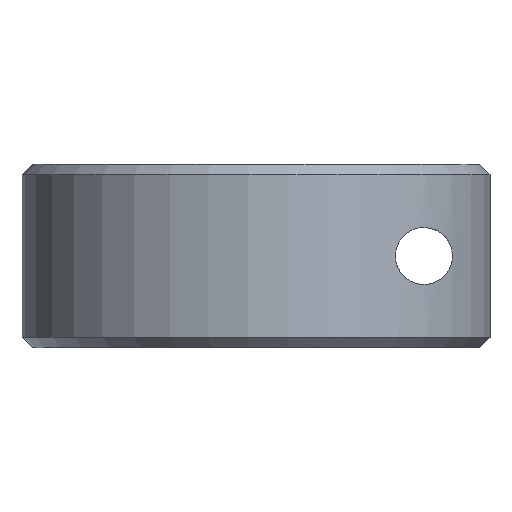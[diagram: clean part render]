
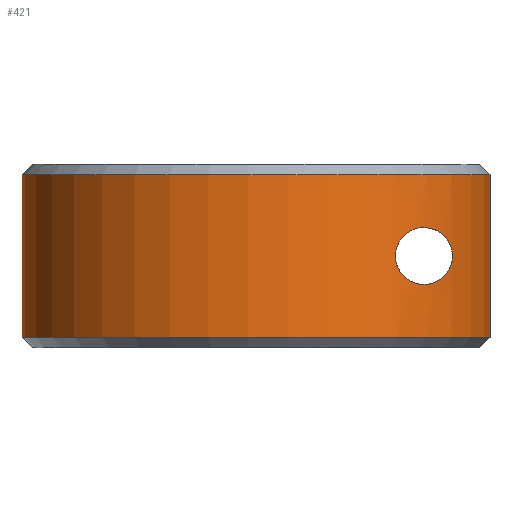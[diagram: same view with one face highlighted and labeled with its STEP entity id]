
A CAD part, front view. The second image highlights one B-rep face of the part: STEP entity #421.
In plain terms, the highlighted cylindrical face has radius 11.113 mm (diameter 22.225 mm), a partial arc.
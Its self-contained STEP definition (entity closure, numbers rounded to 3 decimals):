
#31 = CARTESIAN_POINT ( 'NONE',  ( 6.598, -8.942, 4.248 ) ) ;
#36 = CARTESIAN_POINT ( 'NONE',  ( 6.656, -8.899, 4.761 ) ) ;
#42 = CARTESIAN_POINT ( 'NONE',  ( 6.941, -8.68, 5.273 ) ) ;
#50 = CARTESIAN_POINT ( 'NONE',  ( 9.232, -6.185, 3.912 ) ) ;
#58 = FACE_BOUND ( 'NONE', #350, .T. ) ;
#68 = CARTESIAN_POINT ( 'NONE',  ( 9.233, -6.184, 4.798 ) ) ;
#69 = CARTESIAN_POINT ( 'NONE',  ( 7.95, -7.764, 3.004 ) ) ;
#73 = ORIENTED_EDGE ( 'NONE', *, *, #1037, .T. ) ;
#77 = CARTESIAN_POINT ( 'NONE',  ( 9.303, -6.078, 4.472 ) ) ;
#83 = VERTEX_POINT ( 'NONE', #585 ) ;
#112 = VERTEX_POINT ( 'NONE', #313 ) ;
#127 = B_SPLINE_CURVE_WITH_KNOTS ( 'NONE', 3,
 ( #69, #666, #210, #218, #1130, #495, #1101, #319, #775, #591, #856, #760, #31, #1023, #523, #36, #337, #571, #42, #910, #698, #213, #610, #583 ),
 .UNSPECIFIED., .F., .F.,
 ( 4, 2, 2, 2, 2, 2, 2, 2, 2, 2, 2, 4 ),
 ( 0., 0.001, 0.001, 0.002, 0.002, 0.002, 0.002, 0.003, 0.003, 0.004, 0.004, 0.005 ),
 .UNSPECIFIED. ) ;
#154 = CARTESIAN_POINT ( 'NONE',  ( 7.95, -7.764, 3.004 ) ) ;
#207 = VECTOR ( 'NONE', #594, 1000. ) ;
#210 = CARTESIAN_POINT ( 'NONE',  ( 7.656, -8.057, 3.026 ) ) ;
#213 = CARTESIAN_POINT ( 'NONE',  ( 7.654, -8.058, 5.685 ) ) ;
#218 = CARTESIAN_POINT ( 'NONE',  ( 7.359, -8.329, 3.13 ) ) ;
#232 = LINE ( 'NONE', #486, #207 ) ;
#233 = VERTEX_POINT ( 'NONE', #643 ) ;
#246 = CARTESIAN_POINT ( 'NONE',  ( 9.303, -6.079, 4.237 ) ) ;
#258 = CIRCLE ( 'NONE', #660, 11.113 ) ;
#275 = EDGE_CURVE ( 'NONE', #1124, #83, #258, .T. ) ;
#284 = CIRCLE ( 'NONE', #957, 11.113 ) ;
#290 = CARTESIAN_POINT ( 'NONE',  ( 11.084, -0.794, 8.204 ) ) ;
#300 = DIRECTION ( 'NONE',  ( 0., 0., -1. ) ) ;
#313 = CARTESIAN_POINT ( 'NONE',  ( 7.95, -7.764, 3.004 ) ) ;
#319 = CARTESIAN_POINT ( 'NONE',  ( 6.831, -8.765, 3.591 ) ) ;
#331 = CARTESIAN_POINT ( 'NONE',  ( 9.061, -6.435, 3.561 ) ) ;
#337 = CARTESIAN_POINT ( 'NONE',  ( 6.69, -8.873, 4.858 ) ) ;
#340 = CARTESIAN_POINT ( 'NONE',  ( -11.113, 0., 8.712 ) ) ;
#348 = CARTESIAN_POINT ( 'NONE',  ( 9.194, -6.242, 3.816 ) ) ;
#350 = EDGE_LOOP ( 'NONE', ( #73, #942 ) ) ;
#391 = DIRECTION ( 'NONE',  ( -1., 0., 0. ) ) ;
#406 = DIRECTION ( 'NONE',  ( 1., 0., 0. ) ) ;
#409 = B_SPLINE_CURVE_WITH_KNOTS ( 'NONE', 3,
 ( #681, #763, #1114, #522, #415, #506, #1140, #514, #68, #691, #77, #246, #937, #50, #348, #331, #769, #695, #511, #605, #945, #154 ),
 .UNSPECIFIED., .F., .F.,
 ( 4, 2, 2, 2, 2, 2, 2, 2, 2, 2, 4 ),
 ( 0.005, 0.006, 0.006, 0.007, 0.007, 0.008, 0.008, 0.008, 0.009, 0.01, 0.01 ),
 .UNSPECIFIED. ) ;
#415 = CARTESIAN_POINT ( 'NONE',  ( 8.699, -6.918, 5.494 ) ) ;
#417 = CYLINDRICAL_SURFACE ( 'NONE', #1156, 11.113 ) ;
#421 = ADVANCED_FACE ( 'NONE', ( #58, #592 ), #417, .T. ) ;
#437 = DIRECTION ( 'NONE',  ( 0., 0., -1. ) ) ;
#456 = VERTEX_POINT ( 'NONE', #1008 ) ;
#480 = CARTESIAN_POINT ( 'NONE',  ( 7.95, -7.764, 5.709 ) ) ;
#486 = CARTESIAN_POINT ( 'NONE',  ( 11.084, -0.794, 8.712 ) ) ;
#492 = DIRECTION ( 'NONE',  ( 0., 0., -1. ) ) ;
#495 = CARTESIAN_POINT ( 'NONE',  ( 7.01, -8.623, 3.38 ) ) ;
#504 = ORIENTED_EDGE ( 'NONE', *, *, #572, .T. ) ;
#506 = CARTESIAN_POINT ( 'NONE',  ( 8.948, -6.593, 5.284 ) ) ;
#511 = CARTESIAN_POINT ( 'NONE',  ( 8.56, -7.09, 3.139 ) ) ;
#514 = CARTESIAN_POINT ( 'NONE',  ( 9.195, -6.241, 4.894 ) ) ;
#518 = DIRECTION ( 'NONE',  ( 1., 0., 0. ) ) ;
#522 = CARTESIAN_POINT ( 'NONE',  ( 8.56, -7.09, 5.574 ) ) ;
#523 = CARTESIAN_POINT ( 'NONE',  ( 6.609, -8.933, 4.561 ) ) ;
#571 = CARTESIAN_POINT ( 'NONE',  ( 6.82, -8.774, 5.124 ) ) ;
#572 = EDGE_CURVE ( 'NONE', #233, #456, #284, .T. ) ;
#583 = CARTESIAN_POINT ( 'NONE',  ( 7.95, -7.764, 5.709 ) ) ;
#585 = CARTESIAN_POINT ( 'NONE',  ( -11.113, 0., 8.204 ) ) ;
#591 = CARTESIAN_POINT ( 'NONE',  ( 6.692, -8.872, 3.85 ) ) ;
#592 = FACE_OUTER_BOUND ( 'NONE', #1060, .T. ) ;
#594 = DIRECTION ( 'NONE',  ( 0., 0., -1. ) ) ;
#605 = CARTESIAN_POINT ( 'NONE',  ( 8.267, -7.43, 3.032 ) ) ;
#610 = CARTESIAN_POINT ( 'NONE',  ( 7.804, -7.914, 5.709 ) ) ;
#626 = VECTOR ( 'NONE', #437, 1000. ) ;
#635 = ORIENTED_EDGE ( 'NONE', *, *, #978, .F. ) ;
#643 = CARTESIAN_POINT ( 'NONE',  ( -11.113, 0., 0.508 ) ) ;
#660 = AXIS2_PLACEMENT_3D ( 'NONE', #1092, #300, #406 ) ;
#666 = CARTESIAN_POINT ( 'NONE',  ( 7.804, -7.914, 3.004 ) ) ;
#674 = CARTESIAN_POINT ( 'NONE',  ( 0., 0., 8.712 ) ) ;
#681 = CARTESIAN_POINT ( 'NONE',  ( 7.95, -7.764, 5.709 ) ) ;
#691 = CARTESIAN_POINT ( 'NONE',  ( 9.287, -6.102, 4.587 ) ) ;
#695 = CARTESIAN_POINT ( 'NONE',  ( 8.698, -6.919, 3.217 ) ) ;
#698 = CARTESIAN_POINT ( 'NONE',  ( 7.357, -8.331, 5.582 ) ) ;
#718 = EDGE_CURVE ( 'NONE', #112, #898, #127, .T. ) ;
#724 = LINE ( 'NONE', #340, #626 ) ;
#760 = CARTESIAN_POINT ( 'NONE',  ( 6.61, -8.933, 4.144 ) ) ;
#763 = CARTESIAN_POINT ( 'NONE',  ( 8.113, -7.598, 5.709 ) ) ;
#769 = CARTESIAN_POINT ( 'NONE',  ( 8.947, -6.594, 3.427 ) ) ;
#775 = CARTESIAN_POINT ( 'NONE',  ( 6.778, -8.806, 3.674 ) ) ;
#781 = DIRECTION ( 'NONE',  ( 0., 0., 1. ) ) ;
#810 = ORIENTED_EDGE ( 'NONE', *, *, #855, .T. ) ;
#855 = EDGE_CURVE ( 'NONE', #83, #233, #724, .T. ) ;
#856 = CARTESIAN_POINT ( 'NONE',  ( 6.658, -8.897, 3.944 ) ) ;
#898 = VERTEX_POINT ( 'NONE', #480 ) ;
#910 = CARTESIAN_POINT ( 'NONE',  ( 7.21, -8.457, 5.502 ) ) ;
#937 = CARTESIAN_POINT ( 'NONE',  ( 9.287, -6.103, 4.122 ) ) ;
#942 = ORIENTED_EDGE ( 'NONE', *, *, #718, .T. ) ;
#945 = CARTESIAN_POINT ( 'NONE',  ( 8.113, -7.598, 3.004 ) ) ;
#957 = AXIS2_PLACEMENT_3D ( 'NONE', #1158, #781, #518 ) ;
#978 = EDGE_CURVE ( 'NONE', #1124, #456, #232, .T. ) ;
#995 = ORIENTED_EDGE ( 'NONE', *, *, #275, .T. ) ;
#1008 = CARTESIAN_POINT ( 'NONE',  ( 11.084, -0.794, 0.508 ) ) ;
#1023 = CARTESIAN_POINT ( 'NONE',  ( 6.597, -8.942, 4.456 ) ) ;
#1037 = EDGE_CURVE ( 'NONE', #898, #112, #409, .T. ) ;
#1060 = EDGE_LOOP ( 'NONE', ( #995, #810, #504, #635 ) ) ;
#1092 = CARTESIAN_POINT ( 'NONE',  ( 0., 0., 8.204 ) ) ;
#1101 = CARTESIAN_POINT ( 'NONE',  ( 6.946, -8.674, 3.445 ) ) ;
#1114 = CARTESIAN_POINT ( 'NONE',  ( 8.267, -7.429, 5.68 ) ) ;
#1124 = VERTEX_POINT ( 'NONE', #290 ) ;
#1130 = CARTESIAN_POINT ( 'NONE',  ( 7.213, -8.456, 3.209 ) ) ;
#1140 = CARTESIAN_POINT ( 'NONE',  ( 9.062, -6.434, 5.151 ) ) ;
#1156 = AXIS2_PLACEMENT_3D ( 'NONE', #674, #492, #391 ) ;
#1158 = CARTESIAN_POINT ( 'NONE',  ( 0., 0., 0.508 ) ) ;
